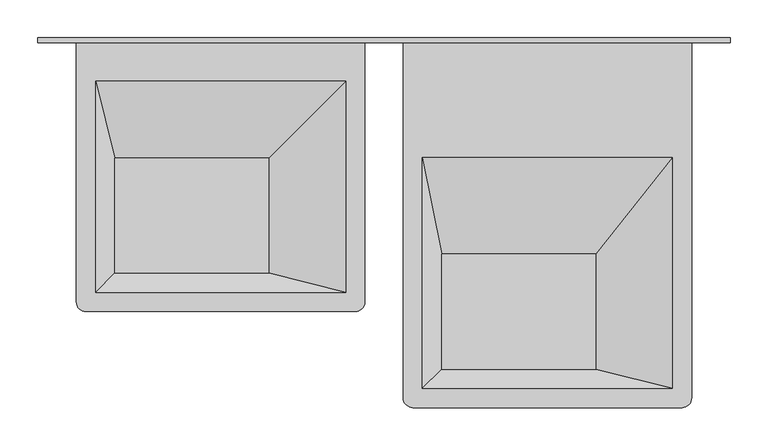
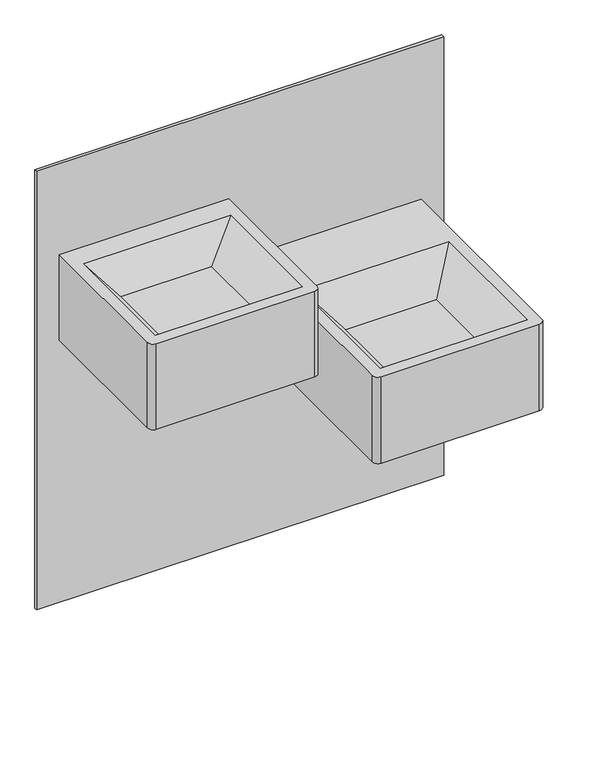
"""IFC4 building model written with IfcOpenShell, lengths in millimetres: flow terminal geometry, Drinking Fountain-Hi-Lo-3D : Drinking Fountain-Hi-Lo-3D."""

from ifc_helpers import new_model, si_unit, frame, origin, place, context, project, spatial, polyline, circle_curve, outline, extrude, source, transform, mapped, element, save
from ifc_brep_helpers import plane_surface, cylinder_surface, advanced_brep


def flow_terminal_489f333d(model_context):
    return source(origin(), model_context, "Body", "SolidModel", [
        advanced_brep(
        [(-37.5185542, -6.35, 1003.3), (-418.5185542, -6.35, 1003.3), (-418.5185542, -349.25, 1003.3), (-405.8185542, -361.95, 1003.3), (-50.2185542, -361.95, 1003.3), (-37.5185542, -349.25, 1003.3), (-393.1185542, -336.55, 1003.3), (-393.1185542, -57.15, 1003.3), (-62.9185542, -57.15, 1003.3), (-62.9185542, -336.55, 1003.3), (-37.5185542, -6.35, 800.1), (-37.5185542, -349.25, 800.1), (-50.2185542, -361.95, 800.1), (-405.8185542, -361.95, 800.1), (-418.5185542, -349.25, 800.1), (-418.5185542, -6.35, 800.1), (-164.5185542, -311.15, 977.9), (-164.5185542, -158.75, 977.9), (-367.7185542, -158.75, 977.9), (-367.7185542, -311.15, 977.9)],
        [
            (0, 1),
            (1, 2),
            (2, 3, circle_curve(frame((-405.8185542, -349.25, 1003.3), z_axis=(0.0, 0.0, 1.0), x_axis=(0.0, -1.0, 0.0)), 12.7)),
            (3, 4),
            (4, 5, circle_curve(frame((-50.2185542, -349.25, 1003.3), z_axis=(0.0, 0.0, 1.0), x_axis=(0.0, -1.0, 0.0)), 12.7)),
            (5, 0),
            (6, 7),
            (7, 8),
            (8, 9),
            (9, 6),
            (10, 11),
            (11, 12, circle_curve(frame((-50.2185542, -349.25, 800.1), z_axis=(0.0, 0.0, -1.0), x_axis=(0.0, -1.0, 0.0)), 12.7)),
            (12, 13),
            (13, 14, circle_curve(frame((-405.8185542, -349.25, 800.1), z_axis=(0.0, 0.0, -1.0), x_axis=(0.0, -1.0, 0.0)), 12.7)),
            (14, 15),
            (15, 10),
            (5, 11),
            (10, 0),
            (4, 12),
            (3, 13),
            (2, 14),
            (1, 15),
            (16, 17),
            (17, 18),
            (18, 19),
            (19, 16),
            (19, 6),
            (9, 16),
            (18, 7),
            (17, 8),
        ],
        [
            plane_surface(frame((-37.5185542, -6.35, 1003.3), z_axis=(0.0, 0.0, 1.0), x_axis=(0.0, -1.0, 0.0))),
            plane_surface(frame((-37.5185542, -6.35, 800.1), z_axis=(0.0, 0.0, -1.0), x_axis=(0.0, 1.0, 0.0))),
            plane_surface(frame((-37.5185542, -6.35, 1003.3), z_axis=(1.0, 0.0, 0.0), x_axis=(0.0, 0.0, -1.0))),
            cylinder_surface(frame((-50.2185542, -349.25, 800.1), z_axis=(0.0, 0.0, 1.0), x_axis=(0.0, -1.0, 0.0)), 12.7),
            plane_surface(frame((-50.2185542, -361.95, 1003.3), z_axis=(0.0, -1.0, 0.0), x_axis=(0.0, 0.0, -1.0))),
            cylinder_surface(frame((-405.8185542, -349.25, 800.1), z_axis=(0.0, 0.0, 1.0), x_axis=(0.0, -1.0, 0.0)), 12.7),
            plane_surface(frame((-418.5185542, -349.25, 1003.3), z_axis=(-1.0, 0.0, 0.0), x_axis=(0.0, 0.0, -1.0))),
            plane_surface(frame((-418.5185542, -6.35, 1003.3), z_axis=(0.0, 1.0, 0.0), x_axis=(0.0, 0.0, -1.0))),
            plane_surface(frame((-266.1185542, -234.95, 977.9), z_axis=(0.0, 0.0, 1.0), x_axis=(-1.0, 0.0, 0.0))),
            plane_surface(frame((-266.1185542, -311.15, 977.9), z_axis=(0.0, 0.7071067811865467, 0.7071067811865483), x_axis=(-1.0, 0.0, 0.0))),
            plane_surface(frame((-367.7185542, -234.95, 977.9), z_axis=(0.7071067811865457, 0.0, 0.7071067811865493), x_axis=(0.0, 1.0, 0.0))),
            plane_surface(frame((-266.1185542, -158.75, 977.9), z_axis=(0.0, -0.2425356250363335, 0.9701425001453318), x_axis=(1.0, 0.0, 0.0))),
            plane_surface(frame((-164.5185542, -234.95, 977.9), z_axis=(-0.24253562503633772, 0.0, 0.9701425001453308), x_axis=(0.0, -1.0, 0.0))),
        ],
        [
            (0, [[1, 2, 3, 4, 5, 6], [7, 8, 9, 10]]),
            (1, [[11, 12, 13, 14, 15, 16]]),
            (2, [[17, -11, 18, -6]]),
            (3, [[19, -12, -17, -5]]),
            (4, [[20, -13, -19, -4]]),
            (5, [[21, -14, -20, -3]]),
            (6, [[22, -15, -21, -2]]),
            (7, [[-18, -16, -22, -1]]),
            (8, [[23, 24, 25, 26]]),
            (9, [[27, -10, 28, -26]]),
            (10, [[29, -7, -27, -25]]),
            (11, [[30, -8, -29, -24]]),
            (12, [[-28, -9, -30, -23]]),
        ],
    ),
        advanced_brep(
        [(394.2814458, -6.35, 850.9), (13.2814458, -6.35, 850.9), (13.2814458, -476.25, 850.9), (25.9814458, -488.95, 850.9), (381.5814458, -488.95, 850.9), (394.2814458, -476.25, 850.9), (38.6814458, -463.1987458, 850.9), (38.6814458, -158.3987458, 850.9), (368.8814458, -158.3987458, 850.9), (368.8814458, -463.1987458, 850.9), (394.2814458, -6.35, 645.7067627), (394.2814458, -476.25, 645.7067627), (381.5814458, -488.95, 645.7067627), (25.9814458, -488.95, 645.7067627), (13.2814458, -476.25, 645.7067627), (13.2814458, -6.35, 645.7067627), (267.2814458, -438.15, 825.5), (267.2814458, -285.75, 825.5), (64.0814458, -285.75, 825.5), (64.0814458, -438.15, 825.5)],
        [
            (0, 1),
            (1, 2),
            (2, 3, circle_curve(frame((25.9814458, -476.25, 850.9), z_axis=(0.0, 0.0, 1.0), x_axis=(0.0, -1.0, 0.0)), 12.7)),
            (3, 4),
            (4, 5, circle_curve(frame((381.5814458, -476.25, 850.9), z_axis=(0.0, 0.0, 1.0), x_axis=(0.0, -1.0, 0.0)), 12.7)),
            (5, 0),
            (6, 7),
            (7, 8),
            (8, 9),
            (9, 6),
            (10, 11),
            (11, 12, circle_curve(frame((381.5814458, -476.25, 645.7067627), z_axis=(0.0, 0.0, -1.0), x_axis=(0.0, -1.0, 0.0)), 12.7)),
            (12, 13),
            (13, 14, circle_curve(frame((25.9814458, -476.25, 645.7067627), z_axis=(0.0, 0.0, -1.0), x_axis=(0.0, -1.0, 0.0)), 12.7)),
            (14, 15),
            (15, 10),
            (5, 11),
            (10, 0),
            (4, 12),
            (3, 13),
            (2, 14),
            (1, 15),
            (16, 17),
            (17, 18),
            (18, 19),
            (19, 16),
            (19, 6),
            (9, 16),
            (18, 7),
            (17, 8),
        ],
        [
            plane_surface(frame((394.2814458, -6.35, 850.9), z_axis=(0.0, 0.0, 1.0), x_axis=(0.0, -1.0, 0.0))),
            plane_surface(frame((394.2814458, -6.35, 645.7067627), z_axis=(0.0, 0.0, -1.0), x_axis=(0.0, 1.0, 0.0))),
            plane_surface(frame((394.2814458, -6.35, 850.9), z_axis=(1.0, 0.0, 0.0), x_axis=(0.0, 0.0, -1.0))),
            cylinder_surface(frame((381.5814458, -476.25, 645.7067627), z_axis=(0.0, 0.0, 1.0), x_axis=(0.0, -1.0, 0.0)), 12.7),
            plane_surface(frame((381.5814458, -488.95, 850.9), z_axis=(0.0, -1.0, 0.0), x_axis=(0.0, 0.0, -1.0))),
            cylinder_surface(frame((25.9814458, -476.25, 645.7067627), z_axis=(0.0, 0.0, 1.0), x_axis=(0.0, -1.0, 0.0)), 12.7),
            plane_surface(frame((13.2814458, -476.25, 850.9), z_axis=(-1.0, 0.0, 0.0), x_axis=(0.0, 0.0, -1.0))),
            plane_surface(frame((13.2814458, -6.35, 850.9), z_axis=(0.0, 1.0, 0.0), x_axis=(0.0, 0.0, -1.0))),
            plane_surface(frame((165.6814458, -361.95, 825.5), z_axis=(0.0, 0.0, 1.0), x_axis=(-1.0, 0.0, 0.0))),
            plane_surface(frame((165.6814458, -438.15, 825.5), z_axis=(0.0, 0.712012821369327, 0.7021664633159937), x_axis=(-1.0, 0.0, 0.0))),
            plane_surface(frame((64.0814458, -361.95, 825.5), z_axis=(0.707106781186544, 0.0, 0.7071067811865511), x_axis=(0.0, 1.0, 0.0))),
            plane_surface(frame((165.6814458, -285.75, 825.5), z_axis=(0.0, -0.1955959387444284, 0.9806845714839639), x_axis=(1.0, 0.0, 0.0))),
            plane_surface(frame((267.2814458, -361.95, 825.5), z_axis=(-0.24253562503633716, 0.0, 0.9701425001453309), x_axis=(0.0, -1.0, 0.0))),
        ],
        [
            (0, [[1, 2, 3, 4, 5, 6], [7, 8, 9, 10]]),
            (1, [[11, 12, 13, 14, 15, 16]]),
            (2, [[17, -11, 18, -6]]),
            (3, [[19, -12, -17, -5]]),
            (4, [[20, -13, -19, -4]]),
            (5, [[21, -14, -20, -3]]),
            (6, [[22, -15, -21, -2]]),
            (7, [[-18, -16, -22, -1]]),
            (8, [[23, 24, 25, 26]]),
            (9, [[27, -10, 28, -26]]),
            (10, [[29, -7, -27, -25]]),
            (11, [[30, -8, -29, -24]]),
            (12, [[-28, -9, -30, -23]]),
        ],
    ),
        extrude(outline(polyline([(-469.3185542, -6.35), (-469.3185542, 0.0), (445.0814458, 0.0), (445.0814458, -6.35), (-469.3185542, -6.35)])), frame((0.0, 0.0, 177.8), z_axis=(0.0, 0.0, 1.0), x_axis=(1.0, 0.0, 0.0)), (0.0, 0.0, 1.0), 1041.4),
    ])


if __name__ == "__main__":
    model = new_model("IFC4")
    model_context = context("Model", 3, world=origin())
    ifc_project = project(units=[si_unit("LENGTHUNIT", "METRE", prefix="MILLI")], contexts=[model_context])
    site = spatial("IfcSite", under=ifc_project)
    building = spatial("IfcBuilding", under=site)
    placement = place(None, origin())
    flow_terminal_shape = flow_terminal_489f333d(model_context)
    element("IfcFlowTerminal", 1, ObjectType="Drinking Fountain-Hi-Lo-3D : Drinking Fountain-Hi-Lo-3D", at=placement, inside=building, context=model_context, shape_type="MappedRepresentation", body=[
        mapped(flow_terminal_shape, transform((0.0, 0.0, 0.0), x_axis=(1.0, 0.0, 0.0), y_axis=(0.0, 1.0, 0.0), z_axis=(0.0, 0.0, 1.0))),
    ])
    save(model, "model.ifc")
